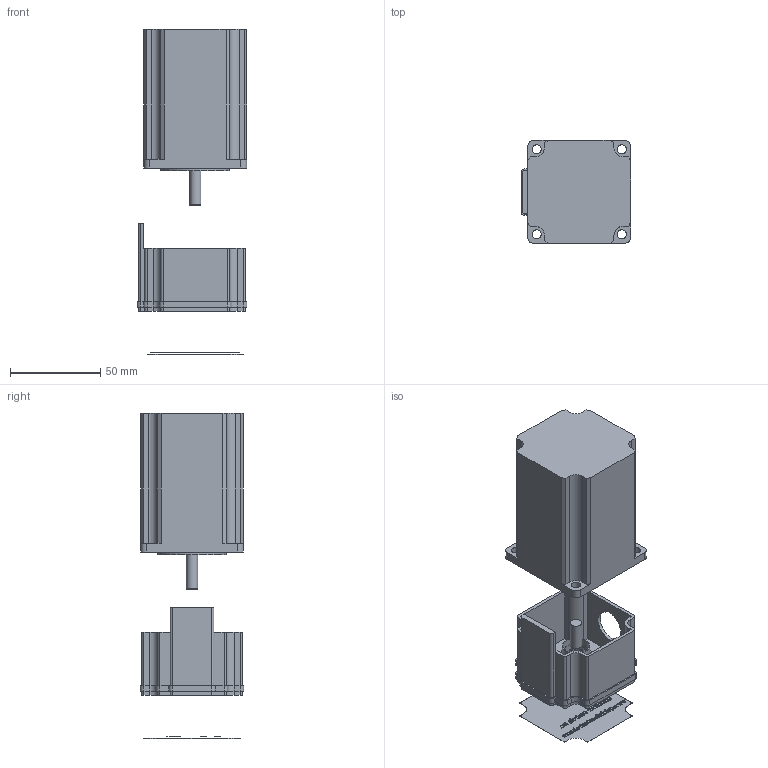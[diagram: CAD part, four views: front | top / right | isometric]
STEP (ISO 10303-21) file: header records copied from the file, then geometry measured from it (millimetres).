
FILE_DESCRIPTION(/* description */ ('Alibre Inc.'),/* implementation_level */ '2;1');
FILE_NAME(/* name */ 'export0',/* time_stamp */ '2008-02-02T08:55:18-08:00',/* author */ (''),/* organization */ (''),/* preprocessor_version */ 'ST-DEVELOPER v10',/* originating_system */ 'Alibre',/* authorisation */ '');
FILE_SCHEMA (('ALIBRE_SCHEMA','CONFIG_CONTROL_DESIGN'));
Length unit declared in the file: centimetre
Products named in the file (8): ID_1
Bounding box: 60.96 x 57.4 x 180.5 mm (x, y, z)
Volume: 251011.5 mm3; surface area: 54382.8 mm2
Topology: 62 solids, 62 shells, 1254 faces, 3291 edges, 2180 vertices
Faces by surface type: bspline 573, plane 559, cylinder 121, cone 1
Full cylindrical faces by diameter (mm): 1.216 x14, 5.08 x4, 6.35 x2, 8.89 x1, 14.732 x1, 15.24 x1, 16 x1, 19.99 x1, 38.1 x1
Entity records: 70291 total; most frequent: CARTESIAN_POINT 17987, ORIENTED_EDGE 6584, CONSTRAINTPAIRUV 4770, DIRECTION 4210, EDGE_CURVE 3261, REFERENCEPOINTUV 2913, PERSISTANTTOPOLOGYATTRIBUTE 2863, VECTOR 2795
